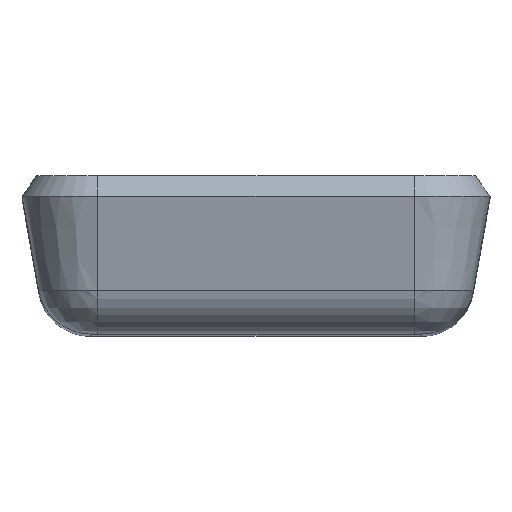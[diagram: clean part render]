
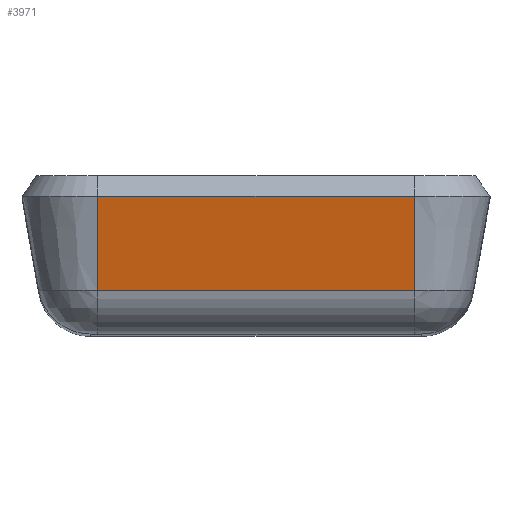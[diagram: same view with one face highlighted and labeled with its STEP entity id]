
A CAD part, top view. The second image highlights one B-rep face of the part: STEP entity #3971.
In plain terms, the highlighted planar face has unit normal (0, -0.174, 0.985).
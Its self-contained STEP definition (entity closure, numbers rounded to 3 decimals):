
#1893 = CYLINDRICAL_SURFACE('',#1894,2.);
#1894 = AXIS2_PLACEMENT_3D('',#1895,#1896,#1897);
#1895 = CARTESIAN_POINT('',(-6.,-5.,26.264));
#1896 = DIRECTION('',(-1.,0.,0.));
#1897 = DIRECTION('',(0.,0.,1.));
#2493 = PLANE('',#2494);
#2494 = AXIS2_PLACEMENT_3D('',#2495,#2496,#2497);
#2495 = CARTESIAN_POINT('',(-6.,-1.,28.309));
#2496 = DIRECTION('',(0.,-0.574,-0.819));
#2497 = DIRECTION('',(0.,0.819,-0.574));
#3753 = CONICAL_SURFACE('',#3754,3.,0.175);
#3754 = AXIS2_PLACEMENT_3D('',#3755,#3756,#3757);
#3755 = CARTESIAN_POINT('',(6.,-1.,26.));
#3756 = DIRECTION('',(0.,1.,0.));
#3757 = DIRECTION('',(0.,0.,-1.));
#3812 = VERTEX_POINT('',#3813);
#3813 = CARTESIAN_POINT('',(6.,-1.788,28.861));
#3879 = EDGE_CURVE('',#3880,#3812,#3882,.T.);
#3880 = VERTEX_POINT('',#3881);
#3881 = CARTESIAN_POINT('',(6.,-5.347,28.233));
#3882 = SURFACE_CURVE('',#3883,(#3887,#3916),.PCURVE_S1.);
#3883 = LINE('',#3884,#3885);
#3884 = CARTESIAN_POINT('',(6.,-1.,29.));
#3885 = VECTOR('',#3886,1.);
#3886 = DIRECTION('',(0.,0.985,0.174));
#3887 = PCURVE('',#3753,#3888);
#3888 = DEFINITIONAL_REPRESENTATION('',(#3889),#3915);
#3889 = B_SPLINE_CURVE_WITH_KNOTS('',3,(#3890,#3891,#3892,#3893,#3894,
    #3895,#3896,#3897,#3898,#3899,#3900,#3901,#3902,#3903,#3904,#3905,
    #3906,#3907,#3908,#3909,#3910,#3911,#3912,#3913,#3914),
  .UNSPECIFIED.,.F.,.F.,(4,1,1,1,1,1,1,1,1,1,1,1,1,1,1,1,1,1,1,1,1,1,4),
  (-4.414,-4.25,-4.086,-3.921,
    -3.757,-3.593,-3.429,-3.264,
    -3.1,-2.936,-2.771,-2.607,
    -2.443,-2.279,-2.114,-1.95,
    -1.786,-1.621,-1.457,-1.293,
    -1.129,-0.964,-0.8),.QUASI_UNIFORM_KNOTS.);
#3890 = CARTESIAN_POINT('',(3.142,-4.347));
#3891 = CARTESIAN_POINT('',(3.142,-4.293));
#3892 = CARTESIAN_POINT('',(3.142,-4.186));
#3893 = CARTESIAN_POINT('',(3.142,-4.024));
#3894 = CARTESIAN_POINT('',(3.142,-3.862));
#3895 = CARTESIAN_POINT('',(3.142,-3.7));
#3896 = CARTESIAN_POINT('',(3.142,-3.538));
#3897 = CARTESIAN_POINT('',(3.142,-3.377));
#3898 = CARTESIAN_POINT('',(3.142,-3.215));
#3899 = CARTESIAN_POINT('',(3.142,-3.053));
#3900 = CARTESIAN_POINT('',(3.142,-2.891));
#3901 = CARTESIAN_POINT('',(3.142,-2.729));
#3902 = CARTESIAN_POINT('',(3.142,-2.568));
#3903 = CARTESIAN_POINT('',(3.142,-2.406));
#3904 = CARTESIAN_POINT('',(3.142,-2.244));
#3905 = CARTESIAN_POINT('',(3.142,-2.082));
#3906 = CARTESIAN_POINT('',(3.142,-1.92));
#3907 = CARTESIAN_POINT('',(3.142,-1.759));
#3908 = CARTESIAN_POINT('',(3.142,-1.597));
#3909 = CARTESIAN_POINT('',(3.142,-1.435));
#3910 = CARTESIAN_POINT('',(3.142,-1.273));
#3911 = CARTESIAN_POINT('',(3.142,-1.111));
#3912 = CARTESIAN_POINT('',(3.142,-0.95));
#3913 = CARTESIAN_POINT('',(3.142,-0.842));
#3914 = CARTESIAN_POINT('',(3.142,-0.788));
#3915 = ( GEOMETRIC_REPRESENTATION_CONTEXT(2) 
PARAMETRIC_REPRESENTATION_CONTEXT() REPRESENTATION_CONTEXT('2D SPACE',''
  ) );
#3916 = PCURVE('',#3917,#3922);
#3917 = PLANE('',#3918);
#3918 = AXIS2_PLACEMENT_3D('',#3919,#3920,#3921);
#3919 = CARTESIAN_POINT('',(-6.,-1.,29.));
#3920 = DIRECTION('',(0.,-0.174,0.985));
#3921 = DIRECTION('',(0.,-0.985,-0.174));
#3922 = DEFINITIONAL_REPRESENTATION('',(#3923),#3927);
#3923 = LINE('',#3924,#3925);
#3924 = CARTESIAN_POINT('',(0.,12.));
#3925 = VECTOR('',#3926,1.);
#3926 = DIRECTION('',(-1.,0.));
#3927 = ( GEOMETRIC_REPRESENTATION_CONTEXT(2) 
PARAMETRIC_REPRESENTATION_CONTEXT() REPRESENTATION_CONTEXT('2D SPACE',''
  ) );
#3971 = ADVANCED_FACE('',(#3972),#3917,.T.);
#3972 = FACE_BOUND('',#3973,.T.);
#3973 = EDGE_LOOP('',(#3974,#3975,#3998,#4025));
#3974 = ORIENTED_EDGE('',*,*,#3879,.T.);
#3975 = ORIENTED_EDGE('',*,*,#3976,.T.);
#3976 = EDGE_CURVE('',#3812,#3977,#3979,.T.);
#3977 = VERTEX_POINT('',#3978);
#3978 = CARTESIAN_POINT('',(-6.,-1.788,28.861));
#3979 = SURFACE_CURVE('',#3980,(#3984,#3991),.PCURVE_S1.);
#3980 = LINE('',#3981,#3982);
#3981 = CARTESIAN_POINT('',(-6.,-1.788,28.861));
#3982 = VECTOR('',#3983,1.);
#3983 = DIRECTION('',(-1.,0.,0.));
#3984 = PCURVE('',#3917,#3985);
#3985 = DEFINITIONAL_REPRESENTATION('',(#3986),#3990);
#3986 = LINE('',#3987,#3988);
#3987 = CARTESIAN_POINT('',(0.8,0.));
#3988 = VECTOR('',#3989,1.);
#3989 = DIRECTION('',(0.,-1.));
#3990 = ( GEOMETRIC_REPRESENTATION_CONTEXT(2) 
PARAMETRIC_REPRESENTATION_CONTEXT() REPRESENTATION_CONTEXT('2D SPACE',''
  ) );
#3991 = PCURVE('',#2493,#3992);
#3992 = DEFINITIONAL_REPRESENTATION('',(#3993),#3997);
#3993 = LINE('',#3994,#3995);
#3994 = CARTESIAN_POINT('',(-0.962,0.));
#3995 = VECTOR('',#3996,1.);
#3996 = DIRECTION('',(0.,-1.));
#3997 = ( GEOMETRIC_REPRESENTATION_CONTEXT(2) 
PARAMETRIC_REPRESENTATION_CONTEXT() REPRESENTATION_CONTEXT('2D SPACE',''
  ) );
#3998 = ORIENTED_EDGE('',*,*,#3999,.F.);
#3999 = EDGE_CURVE('',#4000,#3977,#4002,.T.);
#4000 = VERTEX_POINT('',#4001);
#4001 = CARTESIAN_POINT('',(-6.,-5.347,28.233));
#4002 = SURFACE_CURVE('',#4003,(#4007,#4014),.PCURVE_S1.);
#4003 = LINE('',#4004,#4005);
#4004 = CARTESIAN_POINT('',(-6.,-1.,29.));
#4005 = VECTOR('',#4006,1.);
#4006 = DIRECTION('',(0.,0.985,0.174));
#4007 = PCURVE('',#3917,#4008);
#4008 = DEFINITIONAL_REPRESENTATION('',(#4009),#4013);
#4009 = LINE('',#4010,#4011);
#4010 = CARTESIAN_POINT('',(0.,0.));
#4011 = VECTOR('',#4012,1.);
#4012 = DIRECTION('',(-1.,0.));
#4013 = ( GEOMETRIC_REPRESENTATION_CONTEXT(2) 
PARAMETRIC_REPRESENTATION_CONTEXT() REPRESENTATION_CONTEXT('2D SPACE',''
  ) );
#4014 = PCURVE('',#4015,#4020);
#4015 = CONICAL_SURFACE('',#4016,3.,0.175);
#4016 = AXIS2_PLACEMENT_3D('',#4017,#4018,#4019);
#4017 = CARTESIAN_POINT('',(-6.,-1.,26.));
#4018 = DIRECTION('',(0.,1.,0.));
#4019 = DIRECTION('',(0.,0.,-1.));
#4020 = DEFINITIONAL_REPRESENTATION('',(#4021),#4024);
#4021 = B_SPLINE_CURVE_WITH_KNOTS('',1,(#4022,#4023),.UNSPECIFIED.,.F.,
  .F.,(2,2),(-4.414,-0.8),.PIECEWISE_BEZIER_KNOTS.);
#4022 = CARTESIAN_POINT('',(3.142,-4.347));
#4023 = CARTESIAN_POINT('',(3.142,-0.788));
#4024 = ( GEOMETRIC_REPRESENTATION_CONTEXT(2) 
PARAMETRIC_REPRESENTATION_CONTEXT() REPRESENTATION_CONTEXT('2D SPACE',''
  ) );
#4025 = ORIENTED_EDGE('',*,*,#4026,.T.);
#4026 = EDGE_CURVE('',#4000,#3880,#4027,.T.);
#4027 = SURFACE_CURVE('',#4028,(#4032,#4039),.PCURVE_S1.);
#4028 = LINE('',#4029,#4030);
#4029 = CARTESIAN_POINT('',(6.,-5.347,28.233));
#4030 = VECTOR('',#4031,1.);
#4031 = DIRECTION('',(1.,0.,0.));
#4032 = PCURVE('',#3917,#4033);
#4033 = DEFINITIONAL_REPRESENTATION('',(#4034),#4038);
#4034 = LINE('',#4035,#4036);
#4035 = CARTESIAN_POINT('',(4.414,12.));
#4036 = VECTOR('',#4037,1.);
#4037 = DIRECTION('',(0.,1.));
#4038 = ( GEOMETRIC_REPRESENTATION_CONTEXT(2) 
PARAMETRIC_REPRESENTATION_CONTEXT() REPRESENTATION_CONTEXT('2D SPACE',''
  ) );
#4039 = PCURVE('',#1893,#4040);
#4040 = DEFINITIONAL_REPRESENTATION('',(#4041),#4044);
#4041 = B_SPLINE_CURVE_WITH_KNOTS('',1,(#4042,#4043),.UNSPECIFIED.,.F.,
  .F.,(2,2),(-12.,0.),.PIECEWISE_BEZIER_KNOTS.);
#4042 = CARTESIAN_POINT('',(6.109,0.));
#4043 = CARTESIAN_POINT('',(6.109,-12.));
#4044 = ( GEOMETRIC_REPRESENTATION_CONTEXT(2) 
PARAMETRIC_REPRESENTATION_CONTEXT() REPRESENTATION_CONTEXT('2D SPACE',''
  ) );
